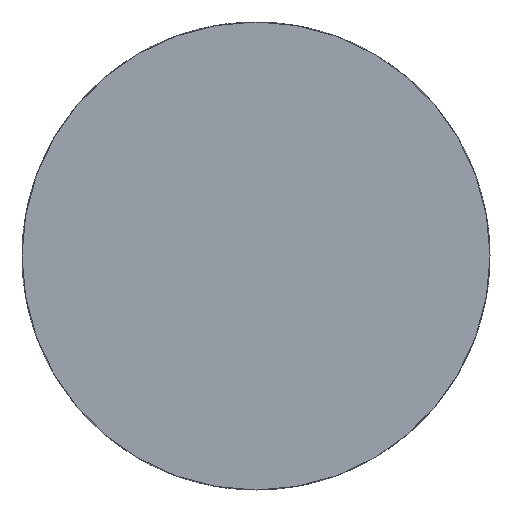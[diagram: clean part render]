
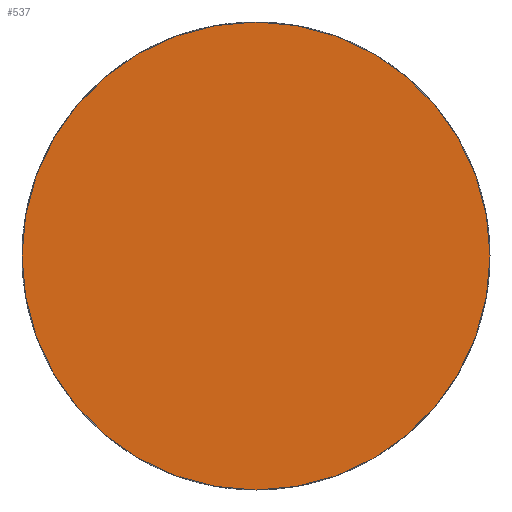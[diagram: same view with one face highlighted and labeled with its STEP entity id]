
A CAD part, left-side view. The second image highlights one B-rep face of the part: STEP entity #537.
In plain terms, the highlighted planar face has unit normal (-1, 0, 0).
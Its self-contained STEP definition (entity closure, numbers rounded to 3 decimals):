
#537 = ADVANCED_FACE( '', ( #1187 ), #1188, .F. );
#1187 = FACE_OUTER_BOUND( '', #1948, .T. );
#1188 = PLANE( '', #1949 );
#1948 = EDGE_LOOP( '', ( #3426 ) );
#1949 = AXIS2_PLACEMENT_3D( '', #3427, #3428, #3429 );
#3426 = ORIENTED_EDGE( '', *, *, #5415, .F. );
#3427 = CARTESIAN_POINT( '', ( 0., 0., 0. ) );
#3428 = DIRECTION( '', ( 1., 0., 0. ) );
#3429 = DIRECTION( '', ( 0., 1., 0. ) );
#5415 = EDGE_CURVE( '', #6807, #6807, #6808, .T. );
#6807 = VERTEX_POINT( '', #8600 );
#6808 = CIRCLE( '', #8601, 14.42 );
#8600 = CARTESIAN_POINT( '', ( 0., 14.42, 0. ) );
#8601 = AXIS2_PLACEMENT_3D( '', #10059, #10060, #10061 );
#10059 = CARTESIAN_POINT( '', ( 0., 0., 0. ) );
#10060 = DIRECTION( '', ( 1., 0., 0. ) );
#10061 = DIRECTION( '', ( 0., 1., 0. ) );
